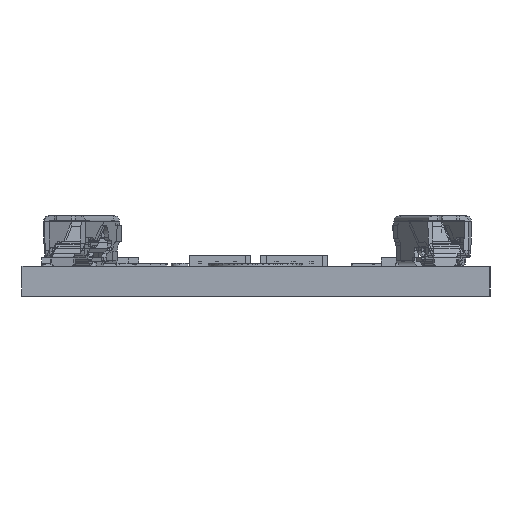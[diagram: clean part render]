
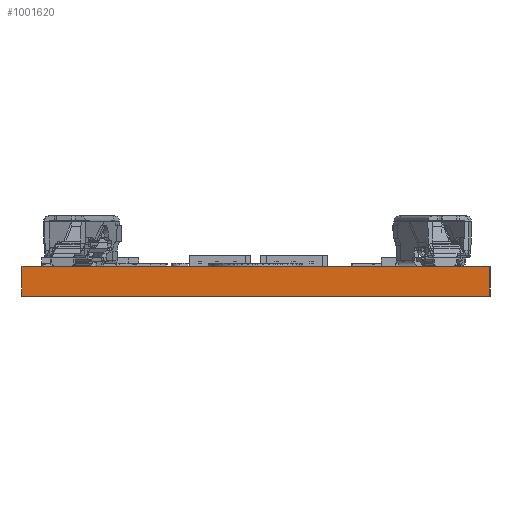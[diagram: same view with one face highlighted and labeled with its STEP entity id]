
A CAD part, left-side view. The second image highlights one B-rep face of the part: STEP entity #1001620.
In plain terms, the highlighted planar face has unit normal (-1, 0, 0).
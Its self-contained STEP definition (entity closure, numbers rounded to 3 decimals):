
#997140=CARTESIAN_POINT('',(3441.632,1595.799,0.));
#997150=VERTEX_POINT('',#997140);
#999080=CARTESIAN_POINT('',(3441.632,1570.799,0.));
#999090=VERTEX_POINT('',#999080);
#999120=CARTESIAN_POINT('',(3441.632,1595.799,0.));
#999130=DIRECTION('',(0.,-1.,0.));
#999140=VECTOR('',#999130,1.);
#999150=LINE('',#999120,#999140);
#999160=EDGE_CURVE('',#997150,#999090,#999150,.T.);
#1001320=CARTESIAN_POINT('',(3441.632,1570.799,0.));
#1001330=DIRECTION('',(1.,0.,0.));
#1001340=DIRECTION('',(0.,-1.,0.));
#1001350=AXIS2_PLACEMENT_3D('',#1001320,#1001330,#1001340);
#1001360=PLANE('',#1001350);
#1001370=ORIENTED_EDGE('',*,*,#999160,.F.);
#1001380=CARTESIAN_POINT('',(3441.632,1570.799,
-1.6));
#1001390=DIRECTION('',(0.,0.,1.));
#1001400=VECTOR('',#1001390,1.);
#1001410=LINE('',#1001380,#1001400);
#1001420=CARTESIAN_POINT('',(3441.632,1570.799,
-1.6));
#1001430=VERTEX_POINT('',#1001420);
#1001440=EDGE_CURVE('',#1001430,#999090,#1001410,.T.);
#1001450=ORIENTED_EDGE('',*,*,#1001440,.T.);
#1001460=CARTESIAN_POINT('',(3441.632,1595.799,
-1.6));
#1001470=DIRECTION('',(0.,-1.,0.));
#1001480=VECTOR('',#1001470,1.);
#1001490=LINE('',#1001460,#1001480);
#1001500=CARTESIAN_POINT('',(3441.632,1595.799,
-1.6));
#1001510=VERTEX_POINT('',#1001500);
#1001520=EDGE_CURVE('',#1001510,#1001430,#1001490,.T.);
#1001530=ORIENTED_EDGE('',*,*,#1001520,.T.);
#1001540=CARTESIAN_POINT('',(3441.632,1595.799,
-1.6));
#1001550=DIRECTION('',(0.,0.,1.));
#1001560=VECTOR('',#1001550,1.);
#1001570=LINE('',#1001540,#1001560);
#1001580=EDGE_CURVE('',#1001510,#997150,#1001570,.T.);
#1001590=ORIENTED_EDGE('',*,*,#1001580,.F.);
#1001600=EDGE_LOOP('',(#1001590,#1001530,#1001450,#1001370));
#1001610=FACE_OUTER_BOUND('',#1001600,.T.);
#1001620=ADVANCED_FACE('',(#1001610),#1001360,.F.);
